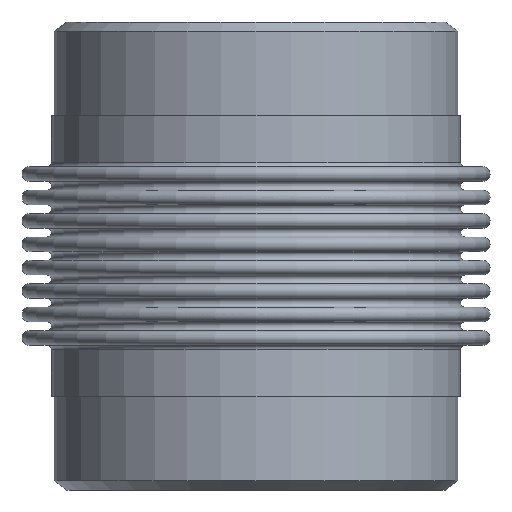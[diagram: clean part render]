
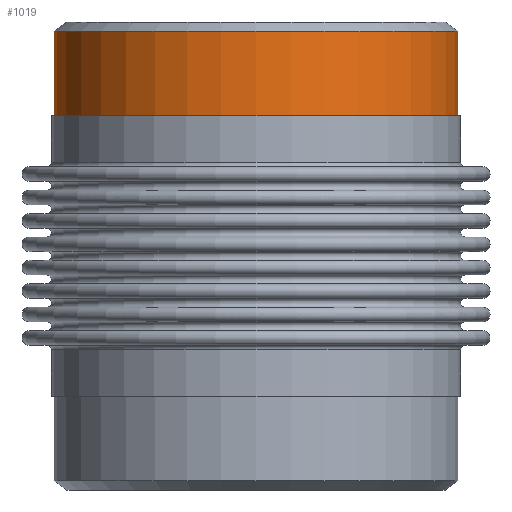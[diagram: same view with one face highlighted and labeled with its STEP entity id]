
A CAD part, front view. The second image highlights one B-rep face of the part: STEP entity #1019.
In plain terms, the highlighted cylindrical face has radius 109.537 mm (diameter 219.075 mm), a full revolution.
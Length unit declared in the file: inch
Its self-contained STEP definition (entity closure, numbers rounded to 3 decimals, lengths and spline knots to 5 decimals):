
#36=LINE('',#1966,#43);
#43=VECTOR('',#1666,4.3125);
#49=CYLINDRICAL_SURFACE('',#1263,4.3125);
#210=FACE_OUTER_BOUND('',#329,.T.);
#329=EDGE_LOOP('',(#889,#890,#891,#892,#893));
#445=CIRCLE('',#1260,4.3125);
#446=CIRCLE('',#1261,4.3125);
#448=CIRCLE('',#1264,4.3125);
#527=VERTEX_POINT('',#1957);
#528=VERTEX_POINT('',#1958);
#530=VERTEX_POINT('',#1965);
#647=EDGE_CURVE('',#527,#528,#445,.T.);
#648=EDGE_CURVE('',#528,#527,#446,.T.);
#651=EDGE_CURVE('',#528,#530,#36,.T.);
#652=EDGE_CURVE('',#530,#530,#448,.T.);
#889=ORIENTED_EDGE('',*,*,#647,.F.);
#890=ORIENTED_EDGE('',*,*,#648,.F.);
#891=ORIENTED_EDGE('',*,*,#651,.T.);
#892=ORIENTED_EDGE('',*,*,#652,.T.);
#893=ORIENTED_EDGE('',*,*,#651,.F.);
#1019=ADVANCED_FACE('',(#210),#49,.T.);
#1260=AXIS2_PLACEMENT_3D('',#1959,#1657,#1658);
#1261=AXIS2_PLACEMENT_3D('',#1960,#1659,#1660);
#1263=AXIS2_PLACEMENT_3D('',#1964,#1664,#1665);
#1264=AXIS2_PLACEMENT_3D('',#1967,#1667,#1668);
#1657=DIRECTION('center_axis',(0.,0.,1.));
#1658=DIRECTION('ref_axis',(-1.,0.,0.));
#1659=DIRECTION('center_axis',(0.,0.,1.));
#1660=DIRECTION('ref_axis',(-1.,0.,0.));
#1664=DIRECTION('center_axis',(0.,0.,1.));
#1665=DIRECTION('ref_axis',(1.,0.,0.));
#1666=DIRECTION('',(0.,0.,-1.));
#1667=DIRECTION('center_axis',(0.,0.,1.));
#1668=DIRECTION('ref_axis',(1.,0.,0.));
#1957=CARTESIAN_POINT('',(4.3125,0.,1.30088));
#1958=CARTESIAN_POINT('',(-4.3125,0.,1.30088));
#1959=CARTESIAN_POINT('Origin',(0.,0.,1.30088));
#1960=CARTESIAN_POINT('Origin',(0.,0.,1.30088));
#1964=CARTESIAN_POINT('Origin',(0.,0.,0.));
#1965=CARTESIAN_POINT('',(-4.3125,0.,-1.5));
#1966=CARTESIAN_POINT('',(-4.3125,0.,0.));
#1967=CARTESIAN_POINT('Origin',(0.,0.,-1.5));
